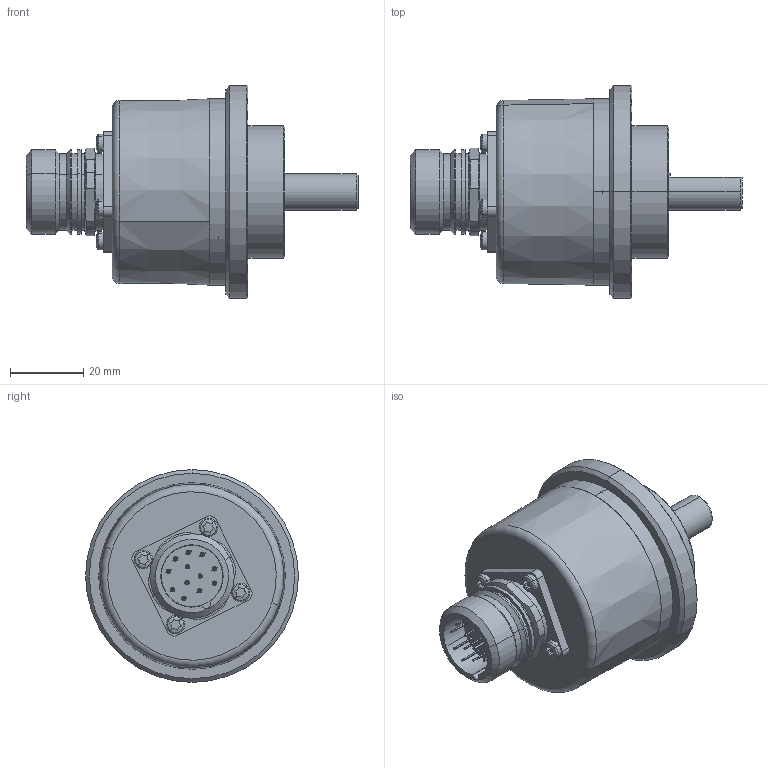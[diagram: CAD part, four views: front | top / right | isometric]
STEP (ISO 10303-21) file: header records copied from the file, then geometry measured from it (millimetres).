
FILE_DESCRIPTION (( 'STEP AP214' ), '1' );
FILE_NAME ('5000.83X7.XXXX.STEP', '2011-01-04T07:53:56', ( 'admin' ), ( 'Fritz Kübler GmbH' ), 'SwSTEP 2.0', 'SolidWorks 2009', '' );
FILE_SCHEMA (( 'AUTOMOTIVE_DESIGN' ));
Length unit declared in the file: millimetre
Products named in the file (1): 5000.83X7.XXXX
Bounding box: 90.5 x 58 x 58 mm (x, y, z)
Surface area: 18275.8 mm2 (no closed solid volume)
Topology: 0 solids, 34 shells, 282 faces, 760 edges, 494 vertices
Faces by surface type: cylinder 109, plane 86, sphere 32, torus 30, cone 25
Entity records: 11965 total; most frequent: DIRECTION 1766, CARTESIAN_POINT 1549, ORIENTED_EDGE 1291, AXIS2_PLACEMENT_3D 759, EDGE_CURVE 734, VERTEX_POINT 494, CIRCLE 476, EDGE_LOOP 332
